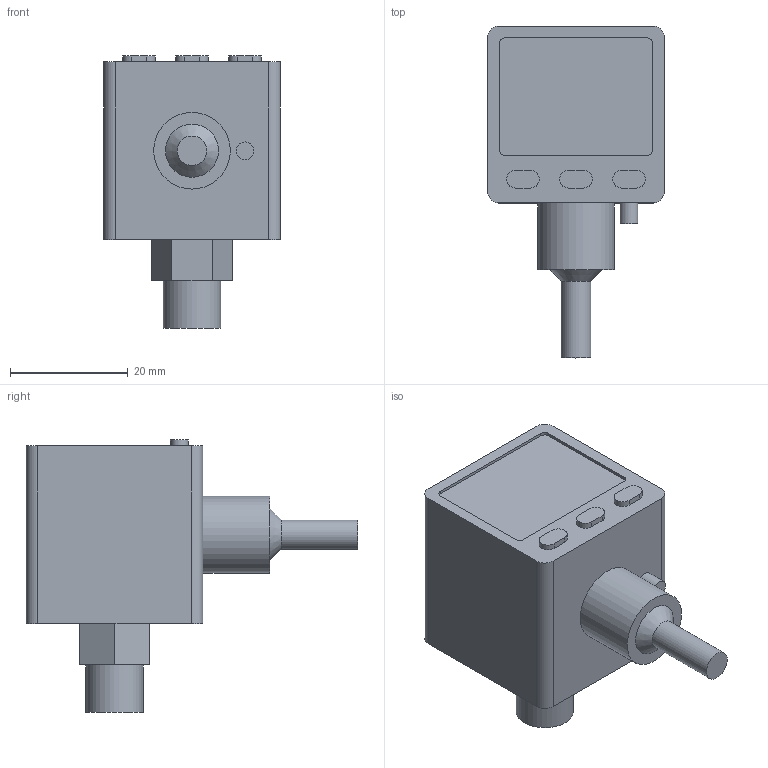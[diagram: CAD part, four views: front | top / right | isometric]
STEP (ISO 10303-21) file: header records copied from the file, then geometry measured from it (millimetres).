
FILE_DESCRIPTION(/* description */ ('VACUOSTATO DIGITALE DA PANNELLO VUOTO/PRESSIONE 2 USCITE #'),/* implementation_level */ '2;1');
FILE_NAME(/* name */ 'C:\PNX_VAULTFOLDER\Area Tecnica\Disegni\VARIE-3D\Componenti\1900 (vuoto)\DS_45_#_#_F3_D_0.stp',/* time_stamp */ '2019-09-16T09:24:01+02:00',/* author */ ('maniean1'),/* organization */ ('Pneumax S.p.A.'),/* preprocessor_version */ 'ST-DEVELOPER v17',/* originating_system */ 'Autodesk Inventor 2019',/* authorisation */ '');
FILE_SCHEMA (('AUTOMOTIVE_DESIGN { 1 0 10303 214 3 1 1 }'));
Length unit declared in the file: millimetre
Products named in the file (1): DS.45.#.#.F3.D.0
Bounding box: 30 x 56.3 x 46.2 mm (x, y, z)
Volume: 30025.9 mm3; surface area: 6810.1 mm2
Topology: 1 solids, 1 shells, 54 faces, 126 edges, 85 vertices
Faces by surface type: plane 33, cylinder 20, cone 1
Full cylindrical faces by diameter (mm): 3 x1, 4.134 x2, 5 x1, 9.728 x1, 13 x1
Entity records: 1598 total; most frequent: DIRECTION 281, CARTESIAN_POINT 266, ORIENTED_EDGE 252, EDGE_CURVE 126, AXIS2_PLACEMENT_3D 100, VERTEX_POINT 85, LINE 81, VECTOR 81
